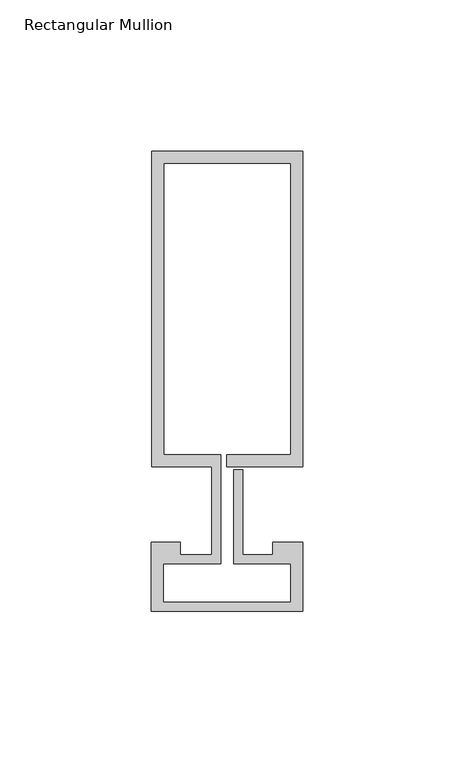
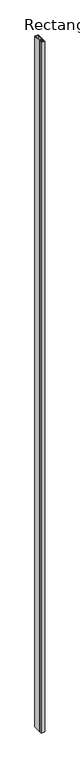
"""IFC4 building model written with IfcOpenShell, lengths in millimetres: member geometry, Rectangular Mullion : Reynaers_CW-50_Mullion-Transom_Vertical_104.5mm_Facecap-02C."""

from ifc_helpers import new_model, si_unit, frame, origin, place, context, project, spatial, polyline, outline, extrude, source, transform, mapped, element, save


def rectangular_mullion_b05ca42d(model_context):
    return source(origin(), model_context, "Body", "SweptSolid", [
        extrude(outline(polyline([(-24.8004059, 117.0), (25.1995941, 117.0), (25.1995941, 12.5), (0.0, 12.5), (0.0, 16.5), (21.1995941, 16.5), (21.1995941, 113.0), (-20.8004059, 113.0), (-20.8004059, 16.5), (-1.9004059, 16.5), (-1.9004059, -19.5), (-20.994845, -19.5), (-20.994845, -32.2191338), (21.1995941, -32.2191338), (21.1995941, -19.5), (2.2995941, -19.5), (2.2995941, 11.5), (5.2995941, 11.5), (5.2995941, -16.5), (15.2996495, -16.5), (15.2996495, -12.5), (25.1995941, -12.5), (25.1995941, -35.3), (-24.994845, -35.3), (-24.994845, -12.5), (-15.2996495, -12.5), (-15.2996495, -16.5), (-4.9004059, -16.5), (-4.9004059, 12.5), (-24.8004059, 12.5), (-24.8004059, 117.0)])), frame((0.0, 0.0, -10400.0), z_axis=(0.0, 0.0, 1.0), x_axis=(1.0, 0.0, 0.0)), (0.0, 0.0, 1.0), 10400.0),
    ])


if __name__ == "__main__":
    model = new_model("IFC4")
    model_context = context("Model", 3, world=origin())
    ifc_project = project(units=[si_unit("LENGTHUNIT", "METRE", prefix="MILLI")], contexts=[model_context])
    site = spatial("IfcSite", under=ifc_project)
    building = spatial("IfcBuilding", under=site)
    placement = place(None, origin())
    rectangular_mullion_shape = rectangular_mullion_b05ca42d(model_context)
    element("IfcMember", 1, ObjectType="Rectangular Mullion : Reynaers_CW-50_Mullion-Transom_Vertical_104.5mm_Facecap-02C", at=placement, inside=building, context=model_context, shape_type="MappedRepresentation", body=[
        mapped(rectangular_mullion_shape, transform((0.0, 0.0, 0.0), x_axis=(1.0, 0.0, 0.0), y_axis=(0.0, 1.0, 0.0), z_axis=(0.0, 0.0, 1.0))),
    ])
    save(model, "model.ifc")
